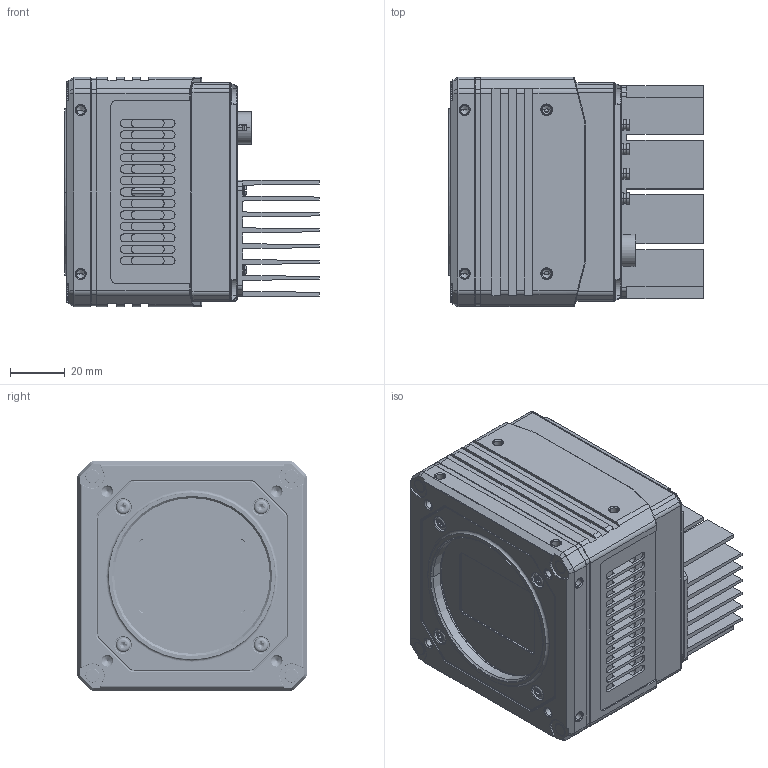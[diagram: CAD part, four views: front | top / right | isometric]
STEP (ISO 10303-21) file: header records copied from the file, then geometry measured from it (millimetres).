
FILE_DESCRIPTION((''),'2;1');
FILE_NAME('MV-CH240-10TM-NN_ASM_ASM','2021-08-10T20:17:43',('wangyijun6'),(''),'CREO PARAMETRIC BY PTC INC, 2017260','CREO PARAMETRIC BY PTC INC, 2017260','');
FILE_SCHEMA(('CONFIG_CONTROL_DESIGN'));
Products named in the file (1): MV-CH240-10TM-NN_ASM_ASM
Bounding box: 93.26 x 84 x 84 mm (x, y, z)
Volume: 396885.4 mm3; surface area: 133115.7 mm2
Topology: 1 solids, 110 shells, 3607 faces, 9306 edges, 5897 vertices
Faces by surface type: plane 1466, cylinder 1304, cone 593, torus 122, bspline 66, extrusion 48, sphere 8
Entity records: 119085 total; most frequent: CARTESIAN_POINT 30834, DIRECTION 18790, ORIENTED_EDGE 18110, EDGE_CURVE 9200, AXIS2_PLACEMENT_3D 6972, VERTEX_POINT 5897, VECTOR 4846, LINE 4798
